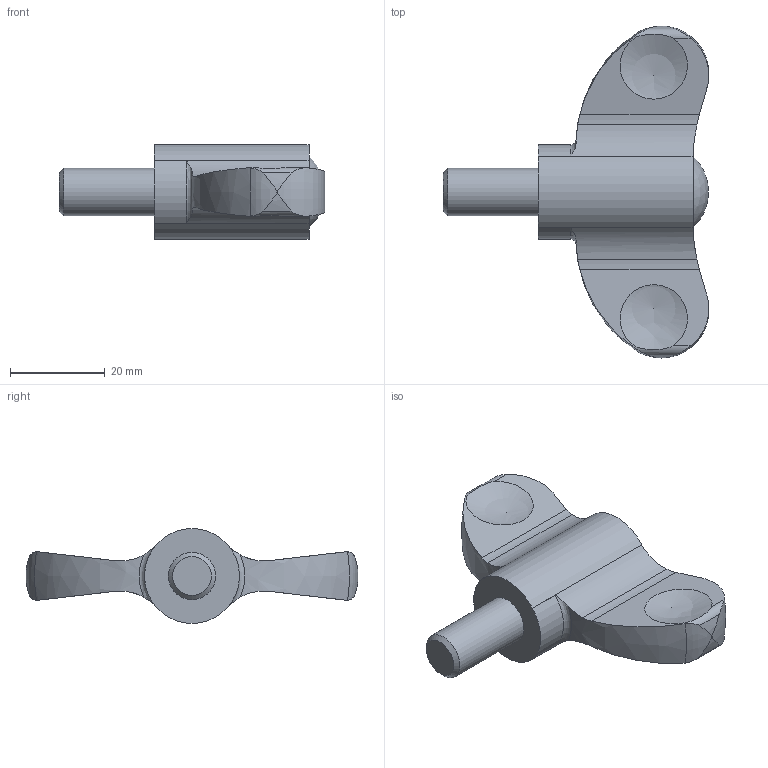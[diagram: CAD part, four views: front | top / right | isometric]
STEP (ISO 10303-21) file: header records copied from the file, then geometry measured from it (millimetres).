
FILE_DESCRIPTION( ( 'STEP AP203' ), '1' );
FILE_NAME( 'C:/Temp/Ganter_Step_05_03_2020/data/2_2/gn_633/Wing nut GN 633-70-M10-20-DGB.stp', '2020-03-05T12:21:16', ( 'License CC BY-ND 4.0' ), ( 'CADENAS' ), ' ', 'PARTsolutions', ' ' );
FILE_SCHEMA( ( 'CONFIG_CONTROL_DESIGN' ) );
Length unit declared in the file: millimetre
Products named in the file (1): _Wing nut GN 633-70-M10-20-DGB
Bounding box: 56 x 70 x 20 mm (x, y, z)
Volume: 20523.1 mm3; surface area: 6210.8 mm2
Topology: 1 solids, 1 shells, 46 faces, 133 edges, 89 vertices
Faces by surface type: cylinder 25, plane 7, sphere 5, torus 4, bspline 4, cone 1
Full cylindrical faces by diameter (mm): 10 x1
Entity records: 2042 total; most frequent: CARTESIAN_POINT 953, ORIENTED_EDGE 236, DIRECTION 180, EDGE_CURVE 118, VERTEX_POINT 84, AXIS2_PLACEMENT_3D 75, B_SPLINE_CURVE_WITH_KNOTS 56, EDGE_LOOP 52
